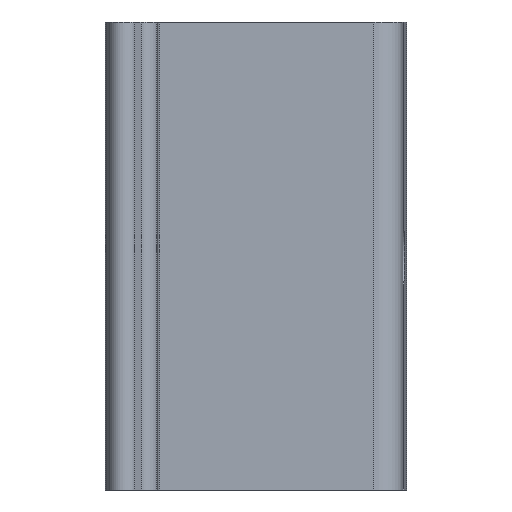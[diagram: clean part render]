
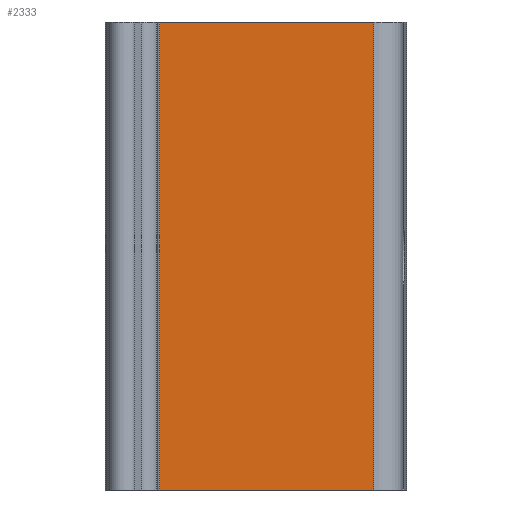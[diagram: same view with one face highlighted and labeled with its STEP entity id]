
A CAD part, front view. The second image highlights one B-rep face of the part: STEP entity #2333.
In plain terms, the highlighted planar face has unit normal (-0.028, -1, 0).
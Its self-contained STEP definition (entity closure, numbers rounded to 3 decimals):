
#103 = EDGE_CURVE ( 'NONE', #1574, #1329, #1033, .T. ) ;
#291 = CARTESIAN_POINT ( 'NONE',  ( -18.308, -22.465, 25. ) ) ;
#323 = AXIS2_PLACEMENT_3D ( 'NONE', #2204, #2667, #1280 ) ;
#352 = CARTESIAN_POINT ( 'NONE',  ( 4.56, -23.1, 25. ) ) ;
#358 = PLANE ( 'NONE',  #323 ) ;
#359 = LINE ( 'NONE', #641, #1582 ) ;
#433 = VECTOR ( 'NONE', #1972, 1000. ) ;
#437 = DIRECTION ( 'NONE',  ( 0., 0., -1. ) ) ;
#538 = EDGE_CURVE ( 'NONE', #573, #1329, #359, .T. ) ;
#551 = CARTESIAN_POINT ( 'NONE',  ( -18.308, -22.465, 25. ) ) ;
#573 = VERTEX_POINT ( 'NONE', #352 ) ;
#641 = CARTESIAN_POINT ( 'NONE',  ( 4.56, -23.1, 25. ) ) ;
#726 = CARTESIAN_POINT ( 'NONE',  ( 4.56, -23.1, 25. ) ) ;
#852 = VECTOR ( 'NONE', #1657, 1000. ) ;
#987 = CARTESIAN_POINT ( 'NONE',  ( -18.308, -22.465, -25. ) ) ;
#989 = VECTOR ( 'NONE', #1419, 1000. ) ;
#1033 = LINE ( 'NONE', #1755, #433 ) ;
#1280 = DIRECTION ( 'NONE',  ( -1., 0.028, 0. ) ) ;
#1329 = VERTEX_POINT ( 'NONE', #1587 ) ;
#1419 = DIRECTION ( 'NONE',  ( 1., -0.028, 0. ) ) ;
#1574 = VERTEX_POINT ( 'NONE', #987 ) ;
#1580 = ORIENTED_EDGE ( 'NONE', *, *, #2634, .T. ) ;
#1582 = VECTOR ( 'NONE', #437, 1000. ) ;
#1587 = CARTESIAN_POINT ( 'NONE',  ( 4.56, -23.1, -25. ) ) ;
#1657 = DIRECTION ( 'NONE',  ( 0., 0., -1. ) ) ;
#1755 = CARTESIAN_POINT ( 'NONE',  ( 4.56, -23.1, -25. ) ) ;
#1972 = DIRECTION ( 'NONE',  ( 1., -0.028, 0. ) ) ;
#2189 = EDGE_LOOP ( 'NONE', ( #2839, #2941, #2939, #1580 ) ) ;
#2204 = CARTESIAN_POINT ( 'NONE',  ( 4.56, -23.1, 25. ) ) ;
#2208 = VERTEX_POINT ( 'NONE', #551 ) ;
#2333 = ADVANCED_FACE ( 'NONE', ( #2514 ), #358, .F. ) ;
#2426 = LINE ( 'NONE', #726, #989 ) ;
#2514 = FACE_OUTER_BOUND ( 'NONE', #2189, .T. ) ;
#2600 = EDGE_CURVE ( 'NONE', #2208, #573, #2426, .T. ) ;
#2634 = EDGE_CURVE ( 'NONE', #2208, #1574, #2804, .T. ) ;
#2667 = DIRECTION ( 'NONE',  ( 0.028, 1., 0. ) ) ;
#2804 = LINE ( 'NONE', #291, #852 ) ;
#2839 = ORIENTED_EDGE ( 'NONE', *, *, #103, .T. ) ;
#2939 = ORIENTED_EDGE ( 'NONE', *, *, #2600, .F. ) ;
#2941 = ORIENTED_EDGE ( 'NONE', *, *, #538, .F. ) ;
